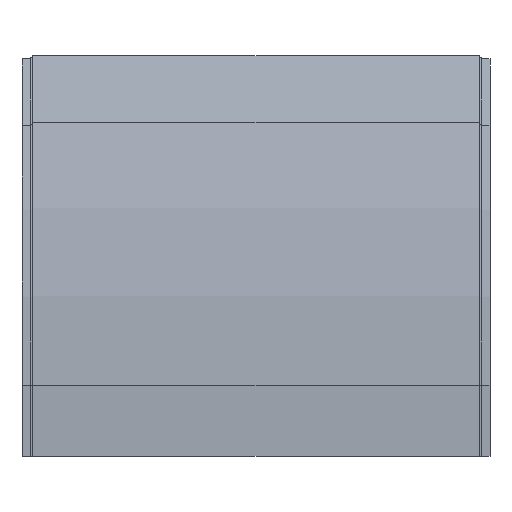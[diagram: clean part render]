
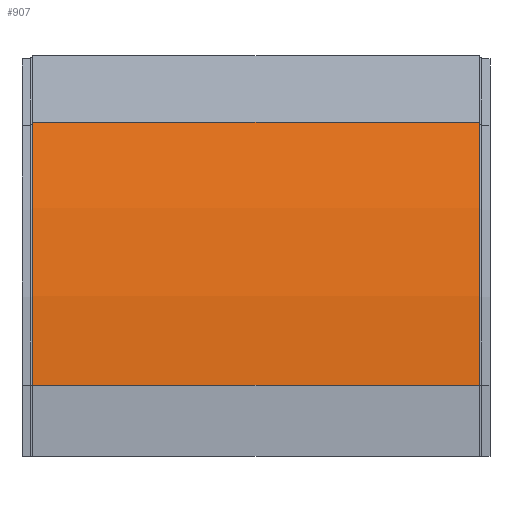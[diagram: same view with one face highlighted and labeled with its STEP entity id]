
A CAD part, front view. The second image highlights one B-rep face of the part: STEP entity #907.
In plain terms, the highlighted cylindrical face has radius 568.25 mm (diameter 1136.5 mm), a partial arc.
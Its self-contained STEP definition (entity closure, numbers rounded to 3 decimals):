
#80 = EDGE_CURVE ( 'NONE', #810, #993, #747, .T. ) ;
#98 = EDGE_CURVE ( 'NONE', #993, #893, #240, .T. ) ;
#114 = AXIS2_PLACEMENT_3D ( 'NONE', #697, #942, #601 ) ;
#163 = VECTOR ( 'NONE', #527, 1000. ) ;
#193 = CARTESIAN_POINT ( 'NONE',  ( 165.1, -68.25, 52.5 ) ) ;
#240 = LINE ( 'NONE', #1017, #384 ) ;
#251 = AXIS2_PLACEMENT_3D ( 'NONE', #834, #808, #1137 ) ;
#338 = EDGE_LOOP ( 'NONE', ( #1108, #1302, #1086, #346 ) ) ;
#346 = ORIENTED_EDGE ( 'NONE', *, *, #80, .F. ) ;
#381 = CARTESIAN_POINT ( 'NONE',  ( -165.1, -33.98, 246.853 ) ) ;
#384 = VECTOR ( 'NONE', #472, 1000. ) ;
#472 = DIRECTION ( 'NONE',  ( 1., 0., 0. ) ) ;
#493 = DIRECTION ( 'NONE',  ( -1., 0., 0. ) ) ;
#527 = DIRECTION ( 'NONE',  ( 1., 0., 0. ) ) ;
#601 = DIRECTION ( 'NONE',  ( 0., 0., 1. ) ) ;
#623 = CARTESIAN_POINT ( 'NONE',  ( -165.1, -68.25, 52.5 ) ) ;
#682 = CARTESIAN_POINT ( 'NONE',  ( -165.1, 500., 52.5 ) ) ;
#697 = CARTESIAN_POINT ( 'NONE',  ( 0., 500., 52.5 ) ) ;
#699 = EDGE_CURVE ( 'NONE', #810, #1326, #1216, .T. ) ;
#747 = CIRCLE ( 'NONE', #816, 568.25 ) ;
#808 = DIRECTION ( 'NONE',  ( -1., 0., 0. ) ) ;
#810 = VERTEX_POINT ( 'NONE', #1337 ) ;
#816 = AXIS2_PLACEMENT_3D ( 'NONE', #682, #493, #1220 ) ;
#834 = CARTESIAN_POINT ( 'NONE',  ( 165.1, 500., 52.5 ) ) ;
#863 = CARTESIAN_POINT ( 'NONE',  ( 165.1, -33.98, 246.853 ) ) ;
#893 = VERTEX_POINT ( 'NONE', #863 ) ;
#896 = CIRCLE ( 'NONE', #251, 568.25 ) ;
#907 = ADVANCED_FACE ( 'NONE', ( #997 ), #1347, .T. ) ;
#942 = DIRECTION ( 'NONE',  ( -1., 0., 0. ) ) ;
#993 = VERTEX_POINT ( 'NONE', #381 ) ;
#997 = FACE_OUTER_BOUND ( 'NONE', #338, .T. ) ;
#1017 = CARTESIAN_POINT ( 'NONE',  ( -165.1, -33.98, 246.853 ) ) ;
#1086 = ORIENTED_EDGE ( 'NONE', *, *, #98, .F. ) ;
#1108 = ORIENTED_EDGE ( 'NONE', *, *, #699, .T. ) ;
#1137 = DIRECTION ( 'NONE',  ( 0., 0., 1. ) ) ;
#1177 = EDGE_CURVE ( 'NONE', #1326, #893, #896, .T. ) ;
#1216 = LINE ( 'NONE', #623, #163 ) ;
#1220 = DIRECTION ( 'NONE',  ( 0., 0., 1. ) ) ;
#1302 = ORIENTED_EDGE ( 'NONE', *, *, #1177, .T. ) ;
#1326 = VERTEX_POINT ( 'NONE', #193 ) ;
#1337 = CARTESIAN_POINT ( 'NONE',  ( -165.1, -68.25, 52.5 ) ) ;
#1347 = CYLINDRICAL_SURFACE ( 'NONE', #114, 568.25 ) ;
